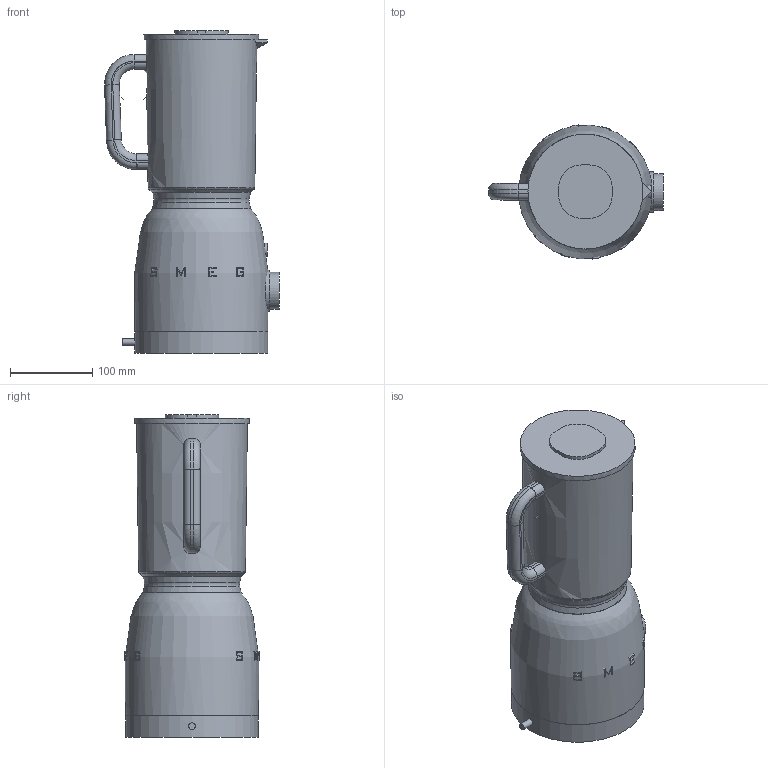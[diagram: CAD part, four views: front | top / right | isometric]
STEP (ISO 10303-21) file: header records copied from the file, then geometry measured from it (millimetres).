
FILE_DESCRIPTION(/* description */ (''),/* implementation_level */ '2;1');
FILE_NAME(/* name */ 'BLF01.stp',/* time_stamp */ '2017-11-24T14:21:39+01:00',/* author */ (''),/* organization */ (''),/* preprocessor_version */ 'ST-DEVELOPER v16',/* originating_system */ 'SIEMENS PLM Software NX 11.0',/* authorisation */ '');
FILE_SCHEMA (('AUTOMOTIVE_DESIGN { 1 0 10303 214 3 1 1 1 }'));
Length unit declared in the file: millimetre
Products named in the file (1): gras12442736ww0f
Bounding box: 213 x 163.27 x 392.9 mm (x, y, z)
Volume: 6498681.4 mm3; surface area: 348333.1 mm2
Topology: 15 solids, 15 shells, 216 faces, 518 edges, 333 vertices
Faces by surface type: plane 136, cylinder 37, extrusion 24, torus 13, bspline 3, cone 3
Full cylindrical faces by diameter (mm): 8 x1, 16 x1, 45 x1, 50 x1, 120 x2, 140 x1, 162 x1
Entity records: 8110 total; most frequent: CARTESIAN_POINT 3544, ORIENTED_EDGE 986, DIRECTION 716, EDGE_CURVE 493, VERTEX_POINT 325, B_SPLINE_CURVE_WITH_KNOTS 272, AXIS2_PLACEMENT_3D 257, EDGE_LOOP 236
